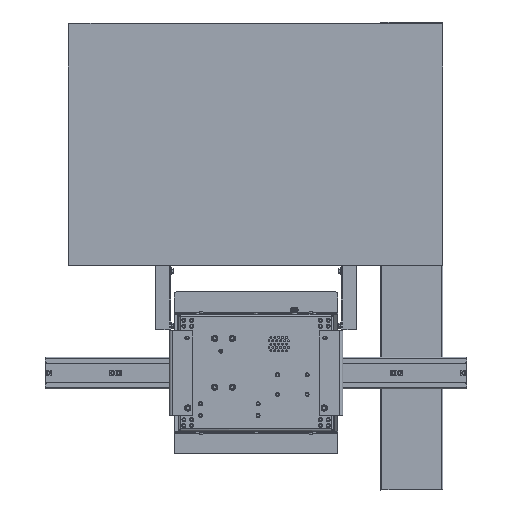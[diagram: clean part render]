
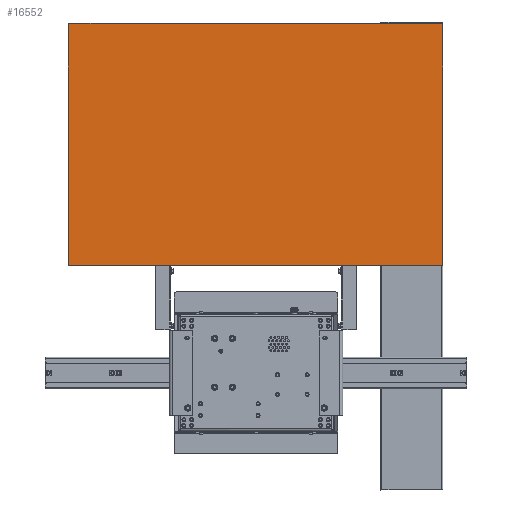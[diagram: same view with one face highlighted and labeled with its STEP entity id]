
A CAD part, front view. The second image highlights one B-rep face of the part: STEP entity #16552.
In plain terms, the highlighted planar face has unit normal (0, -1, 0).
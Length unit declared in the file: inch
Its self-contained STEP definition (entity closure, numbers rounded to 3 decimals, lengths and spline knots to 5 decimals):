
#370 = EDGE_CURVE ( 'NONE', #57813, #55080, #15051, .T. ) ;
#852 = DIRECTION ( 'NONE',  ( 0.707, 0., -0.707 ) ) ;
#1013 = EDGE_LOOP ( 'NONE', ( #27390, #2992, #38850, #52661, #17051, #36193, #48532, #22108 ) ) ;
#2683 = EDGE_CURVE ( 'NONE', #35764, #54218, #11248, .T. ) ;
#2765 = VERTEX_POINT ( 'NONE', #30887 ) ;
#2992 = ORIENTED_EDGE ( 'NONE', *, *, #54511, .T. ) ;
#6017 = AXIS2_PLACEMENT_3D ( 'NONE', #52291, #13516, #47595 ) ;
#9386 = VERTEX_POINT ( 'NONE', #47006 ) ;
#9931 = CARTESIAN_POINT ( 'NONE',  ( 41.40215, 21.51028, 51.62309 ) ) ;
#10727 = LINE ( 'NONE', #54501, #36703 ) ;
#11248 = LINE ( 'NONE', #9931, #35660 ) ;
#12823 = VECTOR ( 'NONE', #26820, 39.37008 ) ;
#13516 = DIRECTION ( 'NONE',  ( 0., 1., 0. ) ) ;
#15051 = LINE ( 'NONE', #36173, #50871 ) ;
#16552 = ADVANCED_FACE ( 'NONE', ( #26960 ), #42723, .F. ) ;
#16942 = EDGE_CURVE ( 'NONE', #57813, #9386, #57425, .T. ) ;
#17015 = VECTOR ( 'NONE', #56026, 39.37008 ) ;
#17051 = ORIENTED_EDGE ( 'NONE', *, *, #26131, .T. ) ;
#21425 = DIRECTION ( 'NONE',  ( 1., 0., 0. ) ) ;
#21948 = CARTESIAN_POINT ( 'NONE',  ( 41.40215, 21.51028, 20.68559 ) ) ;
#22108 = ORIENTED_EDGE ( 'NONE', *, *, #42445, .T. ) ;
#22200 = VECTOR ( 'NONE', #61613, 39.37008 ) ;
#23337 = VERTEX_POINT ( 'NONE', #38206 ) ;
#26131 = EDGE_CURVE ( 'NONE', #9386, #23337, #35198, .T. ) ;
#26820 = DIRECTION ( 'NONE',  ( 0.707, 0., 0.707 ) ) ;
#26960 = FACE_OUTER_BOUND ( 'NONE', #1013, .T. ) ;
#27390 = ORIENTED_EDGE ( 'NONE', *, *, #2683, .F. ) ;
#28354 = CARTESIAN_POINT ( 'NONE',  ( 41.40215, 21.51028, 51.56059 ) ) ;
#30887 = CARTESIAN_POINT ( 'NONE',  ( 41.33965, 21.51028, 20.62309 ) ) ;
#31266 = CARTESIAN_POINT ( 'NONE',  ( -6.53535, 21.51028, 51.62309 ) ) ;
#31275 = DIRECTION ( 'NONE',  ( 1., 0., 0. ) ) ;
#31704 = LINE ( 'NONE', #55512, #56050 ) ;
#35198 = LINE ( 'NONE', #56677, #22200 ) ;
#35660 = VECTOR ( 'NONE', #38941, 39.37008 ) ;
#35764 = VERTEX_POINT ( 'NONE', #28354 ) ;
#36173 = CARTESIAN_POINT ( 'NONE',  ( -6.59785, 21.51028, 51.62309 ) ) ;
#36193 = ORIENTED_EDGE ( 'NONE', *, *, #42264, .T. ) ;
#36703 = VECTOR ( 'NONE', #59211, 39.37008 ) ;
#38206 = CARTESIAN_POINT ( 'NONE',  ( -6.59785, 21.51028, 20.68559 ) ) ;
#38828 = CARTESIAN_POINT ( 'NONE',  ( 41.33965, 21.51028, 51.62309 ) ) ;
#38850 = ORIENTED_EDGE ( 'NONE', *, *, #370, .F. ) ;
#38941 = DIRECTION ( 'NONE',  ( 0., 0., -1. ) ) ;
#41385 = CARTESIAN_POINT ( 'NONE',  ( -6.53535, 21.51028, 51.62309 ) ) ;
#42264 = EDGE_CURVE ( 'NONE', #23337, #62123, #47921, .T. ) ;
#42445 = EDGE_CURVE ( 'NONE', #2765, #54218, #51707, .T. ) ;
#42723 = PLANE ( 'NONE',  #6017 ) ;
#44586 = CARTESIAN_POINT ( 'NONE',  ( -6.59785, 21.51028, 20.68559 ) ) ;
#46156 = CARTESIAN_POINT ( 'NONE',  ( -6.53535, 21.51028, 20.62309 ) ) ;
#47006 = CARTESIAN_POINT ( 'NONE',  ( -6.59785, 21.51028, 51.56059 ) ) ;
#47595 = DIRECTION ( 'NONE',  ( 0., 0., 1. ) ) ;
#47921 = LINE ( 'NONE', #44586, #59342 ) ;
#48532 = ORIENTED_EDGE ( 'NONE', *, *, #59199, .T. ) ;
#50871 = VECTOR ( 'NONE', #21425, 39.37008 ) ;
#51707 = LINE ( 'NONE', #21948, #12823 ) ;
#52291 = CARTESIAN_POINT ( 'NONE',  ( -6.59785, 21.51028, 51.62309 ) ) ;
#52661 = ORIENTED_EDGE ( 'NONE', *, *, #16942, .T. ) ;
#54218 = VERTEX_POINT ( 'NONE', #60527 ) ;
#54501 = CARTESIAN_POINT ( 'NONE',  ( 41.33965, 21.51028, 51.62309 ) ) ;
#54511 = EDGE_CURVE ( 'NONE', #35764, #55080, #10727, .T. ) ;
#55080 = VERTEX_POINT ( 'NONE', #38828 ) ;
#55512 = CARTESIAN_POINT ( 'NONE',  ( -6.59785, 21.51028, 20.62309 ) ) ;
#56026 = DIRECTION ( 'NONE',  ( -0.707, 0., -0.707 ) ) ;
#56050 = VECTOR ( 'NONE', #31275, 39.37008 ) ;
#56677 = CARTESIAN_POINT ( 'NONE',  ( -6.59785, 21.51028, 51.62309 ) ) ;
#57425 = LINE ( 'NONE', #41385, #17015 ) ;
#57813 = VERTEX_POINT ( 'NONE', #31266 ) ;
#59199 = EDGE_CURVE ( 'NONE', #62123, #2765, #31704, .T. ) ;
#59211 = DIRECTION ( 'NONE',  ( -0.707, 0., 0.707 ) ) ;
#59342 = VECTOR ( 'NONE', #852, 39.37008 ) ;
#60527 = CARTESIAN_POINT ( 'NONE',  ( 41.40215, 21.51028, 20.68559 ) ) ;
#61613 = DIRECTION ( 'NONE',  ( 0., 0., -1. ) ) ;
#62123 = VERTEX_POINT ( 'NONE', #46156 ) ;
